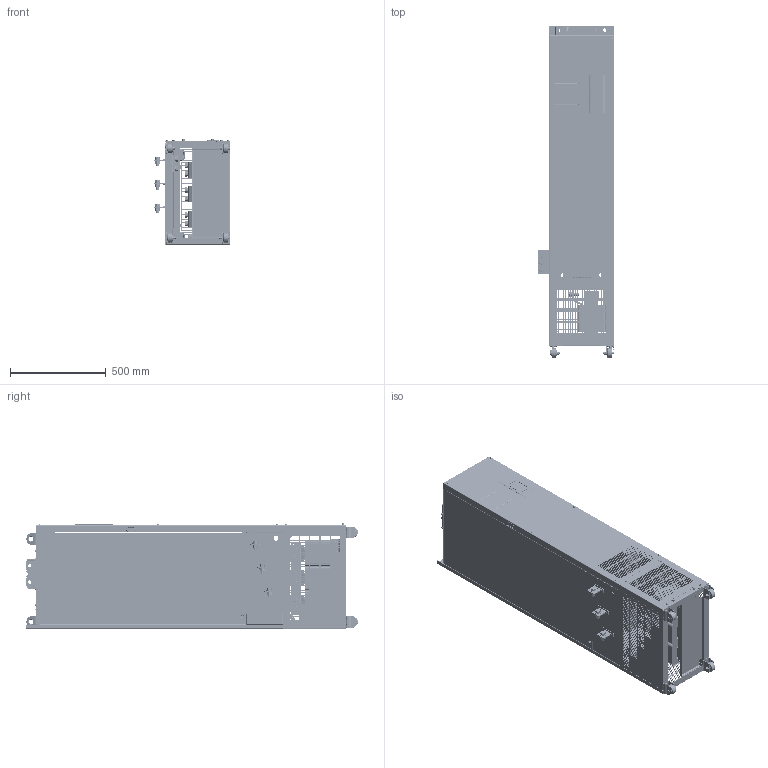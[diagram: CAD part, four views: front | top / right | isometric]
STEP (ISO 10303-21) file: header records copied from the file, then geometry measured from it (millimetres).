
FILE_DESCRIPTION((''),'2;1');
FILE_NAME('000-MVT454ZG-L-520_ASM','2021-12-14T',('h2718'),(''),'CREO PARAMETRIC BY PTC INC, 2015290','CREO PARAMETRIC BY PTC INC, 2015290','');
FILE_SCHEMA(('AP203_CONFIGURATION_CONTROLLED_3D_DESIGN_OF_MECHANICAL_PARTS_AND_ASSEMBLIES_MIM_LF { 1 0 10303 403 2 1 2 }'));
Products named in the file (92): 20310746-LJ_AF1_1; 20310746-LJ_AF0_ASM_1_ASM; 20310738-LJ_AF1_1_1; 20310738-LJ_AF1_1_2; 20310738-LJ_AF1_1_ASM; 20310738-LJ_AF0_ASM_1_ASM; 20310742-LJ_AF1_1_1; 20310742-LJ_AF1_1_2; 20310742-LJ_AF1_1_ASM; 20310742-LJ_AF0_ASM_1_ASM; 20310745-LJ_AF1_3; 20310745-LJ_AF0_ASM_3_ASM; 20310758-LJ_1; HC-NZ-M16-ZC_1; 20310758-LJ_ASM_1_ASM; 20310757-LJ_1; 20110150-ZP_ASM_2_ASM; 20460221-LJ_1; 20460221-LJ_ASM_1_ASM; 20460222-LJ_1; 20460222-LJ_ASM_1_ASM; SIT2013ADF2; HC-TPR-5-10-SL; 20460223-LJ_ASM_1_ASM; 20310755-LJ_1; 20310755-LJ_ASM_1_ASM; 20310754-LJ_1; 20130203-ZP_ASM_1_ASM; 20460224-LJ_1_1; 20460224-LJ_1_2; 20460224-LJ_1_ASM; 20190062-ZP_ASM_2_ASM; 20310761-LJ_3; 20310761-LJ_ASM_3_ASM; 20310762-LJ_3; 20310762-LJ_ASM_3_ASM; 20480139-LJ_3; 20480139-LJ_ASM_3_ASM; 20480138-LJ_3; 20480138-LJ_ASM_3_ASM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
Assembly tree (203 placements, depth 7):
  000-MVT454ZG-L-520_ASM
    MVT324ZG_ASM_9_ASM
      20190062-ZP_ASM_2_ASM
        20110150-ZP_ASM_2_ASM
          20310746-LJ_AF0_ASM_1_ASM
            20310746-LJ_AF1_1
          20310738-LJ_AF0_ASM_1_ASM
            20310738-LJ_AF1_1_ASM
              20310738-LJ_AF1_1_1
              20310738-LJ_AF1_1_2
          20310742-LJ_AF0_ASM_1_ASM
            20310742-LJ_AF1_1_ASM
              20310742-LJ_AF1_1_1
              20310742-LJ_AF1_1_2
          20310745-LJ_AF0_ASM_3_ASM
            20310745-LJ_AF1_3
          20310758-LJ_ASM_1_ASM
            20310758-LJ_1
            HC-NZ-M16-ZC_1  x2
          20310757-LJ_1  x2
        20460221-LJ_ASM_1_ASM
          20460221-LJ_1
        20460222-LJ_ASM_1_ASM
          20460222-LJ_1
        20460223-LJ_ASM_1_ASM
          SIT2013ADF2
          HC-TPR-5-10-SL
        20130203-ZP_ASM_1_ASM  x2
          20310755-LJ_ASM_1_ASM
            20310755-LJ_1
          20310754-LJ_1
        20460224-LJ_1_ASM
          20460224-LJ_1_1
          20460224-LJ_1_2
      20110140-ZP_ASM_4_ASM
        20110152-ZP_ASM_3_ASM
          20310761-LJ_ASM_3_ASM
            20310761-LJ_3
          20310762-LJ_ASM_3_ASM
            20310762-LJ_3
          20480139-LJ_ASM_3_ASM  x2
            20480139-LJ_3
          20480138-LJ_ASM_3_ASM  x2
            20480138-LJ_3
          20310760-LJ_ASM_1_ASM
            20310760-LJ_1
            HC-NZ-M16-ZC_1  x2
        20180102-LJ_ASM_4_ASM
          20180102-LJ_3
        20460226-LJ_3
        20460227-LJ_3
        20460228-LJ_2
        20460225-LJ_4
      20320953-LJ_ASM_4_ASM  x3
        20320953-LJ_4
        HC-S-M4-ZC_1
      20180084-LJ_1  x8
      20230145-LJ_2
      20320568-ZP_ASM_3_ASM
        20320919-LJ_AF0_ASM_1_ASM
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Bounding box: 400.66 x 1733.5 x 551.7 mm (x, y, z)
Volume: 18836414.4 mm3; surface area: 10543841.7 mm2
Topology: 206 solids, 224 shells, 17973 faces, 48952 edges, 31640 vertices
Faces by surface type: plane 11572, cylinder 4158, cone 1145, bspline 617, torus 360, extrusion 70, sphere 41, revolution 10
Entity records: 610037 total; most frequent: CARTESIAN_POINT 117745, ORIENTED_EDGE 74300, DIRECTION 70883, PRESENTATION_STYLE_ASSIGNMENT 40125, STYLED_ITEM 37626, CURVE_STYLE 37532, EDGE_CURVE 37179, VECTOR 28197
